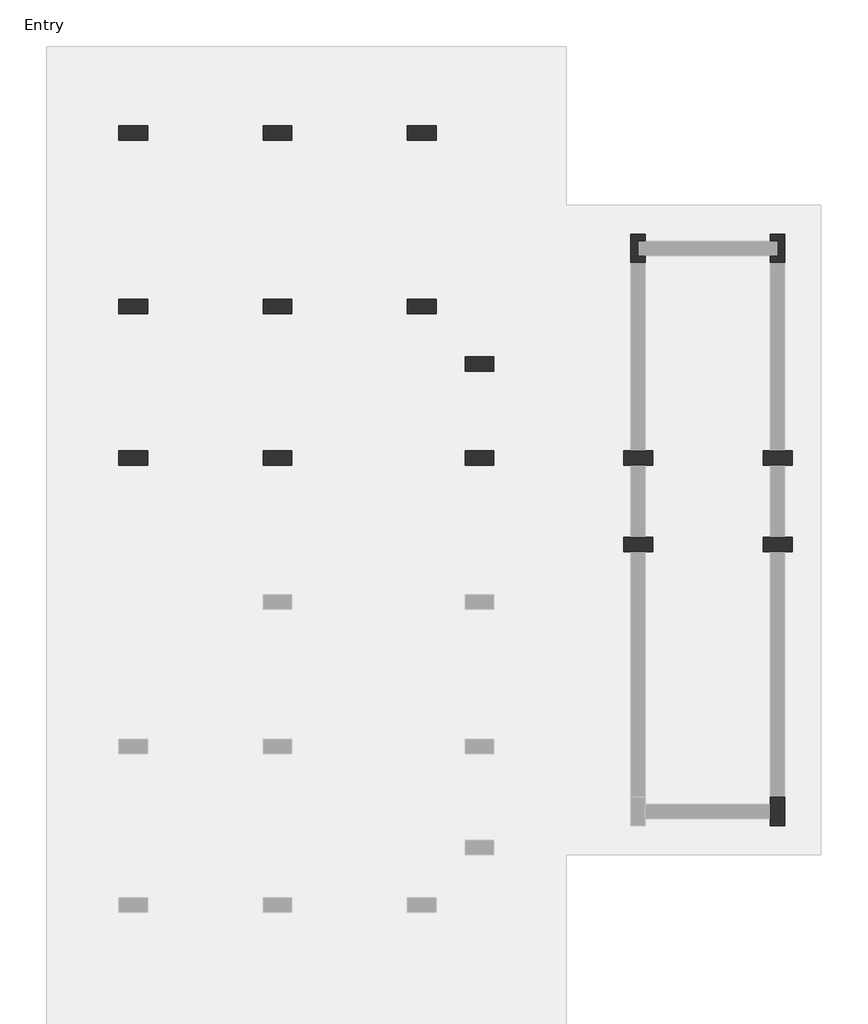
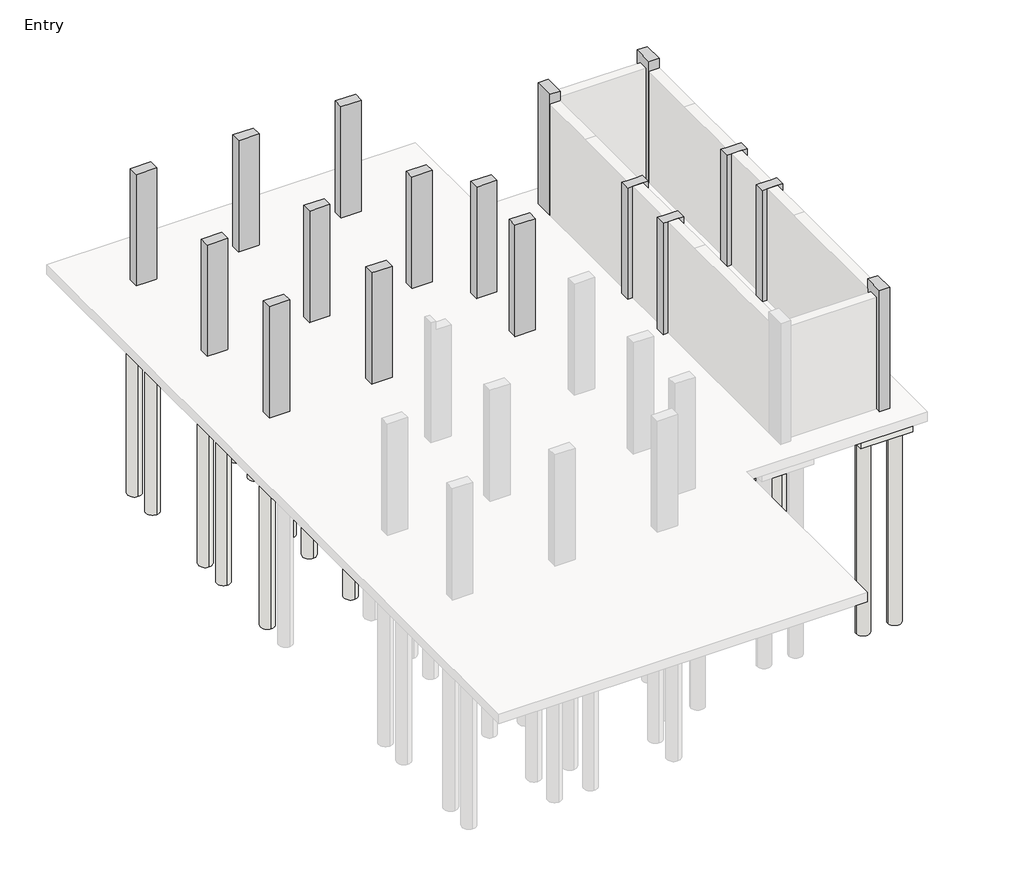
# One storey, part 2 of 2: 51 slabs, 17 columns.
"""IFC4 building model written with IfcOpenShell, lengths in millimetres."""

from ifc_helpers import new_model, si_unit, point, frame, frame_2d, origin, origin_with_axes, place, context, project, spatial, polyline, circle_curve, trimmed, segment, composite_curve, outline, extrude, faceted_brep, element, save

model = new_model("IFC4")

# Units and contexts
model_context = context("Model", 3, world=origin())
ifc_project = project(units=[si_unit("LENGTHUNIT", "METRE", prefix="MILLI")], contexts=[model_context])

# Site, building, storey
site = spatial("IfcSite", under=ifc_project)
building = spatial("IfcBuilding", under=site)
storey = spatial("IfcBuildingStorey", under=building, Name="Entry", Elevation=0.0)

# Columns
placement = place(None, origin())
element("IfcColumn", 1, ObjectType="Concrete-Rectangular-Column : 12 x 24", at=placement, inside=storey, context=model_context, shape_type="SweptSolid", body=[
    extrude(outline(polyline([(-28885.8572388, 23021.6740068), (-28276.2572388, 23021.6740068), (-28276.2572388, 22716.8740068), (-28885.8572388, 22716.8740068), (-28885.8572388, 23021.6740068)])), origin_with_axes(), (0.0, 0.0, 1.0), 3505.2),
])
element("IfcColumn", 2, ObjectType="Concrete-Rectangular-Column : 12 x 24", at=placement, inside=storey, context=model_context, shape_type="SweptSolid", body=[
    extrude(outline(polyline([(-25837.8572388, 23021.6740068), (-25228.2572388, 23021.6740068), (-25228.2572388, 22716.8740068), (-25837.8572388, 22716.8740068), (-25837.8572388, 23021.6740068)])), origin_with_axes(), (0.0, 0.0, 1.0), 3505.2),
])
element("IfcColumn", 3, ObjectType="Concrete-Rectangular-Column : 12 x 24", at=placement, inside=storey, context=model_context, shape_type="SweptSolid", body=[
    extrude(outline(polyline([(-22789.8572388, 23021.6740068), (-22180.2572388, 23021.6740068), (-22180.2572388, 22716.8740068), (-22789.8572388, 22716.8740068), (-22789.8572388, 23021.6740068)])), origin_with_axes(), (0.0, 0.0, 1.0), 3505.2),
])
element("IfcColumn", 4, ObjectType="Concrete-Rectangular-Column : 12 x 24", at=placement, inside=storey, context=model_context, shape_type="SweptSolid", body=[
    extrude(outline(polyline([(-28885.8572388, 19364.0740068), (-28276.2572388, 19364.0740068), (-28276.2572388, 19059.2740068), (-28885.8572388, 19059.2740068), (-28885.8572388, 19364.0740068)])), origin_with_axes(), (0.0, 0.0, 1.0), 3505.2),
])
element("IfcColumn", 5, ObjectType="Concrete-Rectangular-Column : 12 x 24", at=placement, inside=storey, context=model_context, shape_type="SweptSolid", body=[
    extrude(outline(polyline([(-25837.8572388, 19364.0740068), (-25228.2572388, 19364.0740068), (-25228.2572388, 19059.2740068), (-25837.8572388, 19059.2740068), (-25837.8572388, 19364.0740068)])), origin_with_axes(), (0.0, 0.0, 1.0), 3505.2),
])
element("IfcColumn", 6, ObjectType="Concrete-Rectangular-Column : 12 x 24", at=placement, inside=storey, context=model_context, shape_type="SweptSolid", body=[
    extrude(outline(polyline([(-22789.8572388, 19364.0740068), (-22180.2572388, 19364.0740068), (-22180.2572388, 19059.2740068), (-22789.8572388, 19059.2740068), (-22789.8572388, 19364.0740068)])), origin_with_axes(), (0.0, 0.0, 1.0), 3505.2),
])
element("IfcColumn", 7, ObjectType="Concrete-Rectangular-Column : 12 x 24", at=placement, inside=storey, context=model_context, shape_type="SweptSolid", body=[
    extrude(outline(polyline([(-21570.6572388, 18144.8740068), (-20961.0572388, 18144.8740068), (-20961.0572388, 17840.0740068), (-21570.6572388, 17840.0740068), (-21570.6572388, 18144.8740068)])), origin_with_axes(), (0.0, 0.0, 1.0), 3505.2),
])
element("IfcColumn", 8, ObjectType="Concrete-Rectangular-Column : 12 x 24", at=placement, inside=storey, context=model_context, shape_type="SweptSolid", body=[
    extrude(outline(polyline([(-28885.8572388, 16163.6740068), (-28276.2572388, 16163.6740068), (-28276.2572388, 15858.8740068), (-28885.8572388, 15858.8740068), (-28885.8572388, 16163.6740068)])), origin_with_axes(), (0.0, 0.0, 1.0), 3505.2),
])
element("IfcColumn", 9, ObjectType="Concrete-Rectangular-Column : 12 x 24", at=placement, inside=storey, context=model_context, shape_type="Brep", body=[
    faceted_brep([(-25837.8572388, 16163.6740068, 0.0), (-25228.2572388, 16163.6740068, 0.0), (-25228.2572388, 15858.8740068, 0.0), (-25837.8572388, 15858.8740068, 0.0), (-25837.8572388, 16163.6740068, 3505.2), (-25228.2572388, 16163.6740068, 3505.2), (-25228.2572388, 15858.8740068, 3505.2), (-25685.4572388, 15858.8740068, 3505.2), (-25837.8572388, 15858.8740068, 3505.2)], [[[0, 1, 2, 3]], [[1, 0, 4, 5]], [[2, 1, 5, 6]], [[3, 2, 6, 7, 8]], [[0, 3, 8, 4]], [[5, 4, 8, 7, 6]]]),
])
element("IfcColumn", 10, ObjectType="Concrete-Rectangular-Column : 12 x 24", at=placement, inside=storey, context=model_context, shape_type="SweptSolid", body=[
    extrude(outline(polyline([(-21570.6572388, 16163.6740068), (-20961.0572388, 16163.6740068), (-20961.0572388, 15858.8740068), (-21570.6572388, 15858.8740068), (-21570.6572388, 16163.6740068)])), origin_with_axes(), (0.0, 0.0, 1.0), 3505.2),
])
element("IfcColumn", 11, ObjectType="Concrete-Rectangular-Column : 12 x 24", at=placement, inside=storey, context=model_context, shape_type="Brep", body=[
    faceted_brep([(-18217.8572388, 16163.6740068, 0.0), (-18065.4572388, 16163.6740068, 0.0), (-17760.6572388, 16163.6740068, 0.0), (-17608.2572388, 16163.6740068, 0.0), (-17608.2572388, 15858.8740068, 0.0), (-17760.6572388, 15858.8740068, 0.0), (-18065.4572388, 15858.8740068, 0.0), (-18217.8572388, 15858.8740068, 0.0), (-18217.8572388, 16163.6740068, 3505.2), (-18065.4572388, 16163.6740068, 3505.2), (-17760.6572388, 16163.6740068, 3505.2), (-17608.2572388, 16163.6740068, 3505.2), (-17608.2572388, 15858.8740068, 3505.2), (-17760.6572388, 15858.8740068, 3505.2), (-18065.4572388, 15858.8740068, 3505.2), (-18217.8572388, 15858.8740068, 3505.2)], [[[0, 1, 2, 3, 4, 5, 6, 7]], [[3, 2, 1, 0, 8, 9, 10, 11]], [[4, 3, 11, 12]], [[7, 6, 5, 4, 12, 13, 14, 15]], [[0, 7, 15, 8]], [[11, 10, 9, 8, 15, 14, 13, 12]]]),
])
element("IfcColumn", 12, ObjectType="Concrete-Rectangular-Column : 12 x 24", at=placement, inside=storey, context=model_context, shape_type="Brep", body=[
    faceted_brep([(-15271.4572388, 16163.6740068, 0.0), (-15119.0572388, 16163.6740068, 0.0), (-14814.2572388, 16163.6740068, 0.0), (-14661.8572388, 16163.6740068, 0.0), (-14661.8572388, 15858.8740068, 0.0), (-14814.2572388, 15858.8740068, 0.0), (-15119.0572388, 15858.8740068, 0.0), (-15271.4572388, 15858.8740068, 0.0), (-15271.4572388, 16163.6740068, 3505.2), (-15119.0572388, 16163.6740068, 3505.2), (-14814.2572388, 16163.6740068, 3505.2), (-14661.8572388, 16163.6740068, 3505.2), (-14661.8572388, 15858.8740068, 3505.2), (-14814.2572388, 15858.8740068, 3505.2), (-15119.0572388, 15858.8740068, 3505.2), (-15271.4572388, 15858.8740068, 3505.2)], [[[0, 1, 2, 3, 4, 5, 6, 7]], [[3, 2, 1, 0, 8, 9, 10, 11]], [[4, 3, 11, 12]], [[7, 6, 5, 4, 12, 13, 14, 15]], [[0, 7, 15, 8]], [[11, 10, 9, 8, 15, 14, 13, 12]]]),
])
element("IfcColumn", 13, ObjectType="Concrete-Rectangular-Column : 12 x 24", at=placement, inside=storey, context=model_context, shape_type="Brep", body=[
    faceted_brep([(-18217.8572388, 14334.8740068, 0.0), (-18065.4572388, 14334.8740068, 0.0), (-17760.6572388, 14334.8740068, 0.0), (-17608.2572388, 14334.8740068, 0.0), (-17608.2572388, 14030.0740068, 0.0), (-17760.6572388, 14030.0740068, 0.0), (-18065.4572388, 14030.0740068, 0.0), (-18217.8572388, 14030.0740068, 0.0), (-18217.8572388, 14334.8740068, 3505.2), (-18065.4572388, 14334.8740068, 3505.2), (-17760.6572388, 14334.8740068, 3505.2), (-17608.2572388, 14334.8740068, 3505.2), (-17608.2572388, 14030.0740068, 3505.2), (-17760.6572388, 14030.0740068, 3505.2), (-18065.4572388, 14030.0740068, 3505.2), (-18217.8572388, 14030.0740068, 3505.2)], [[[0, 1, 2, 3, 4, 5, 6, 7]], [[3, 2, 1, 0, 8, 9, 10, 11]], [[4, 3, 11, 12]], [[7, 6, 5, 4, 12, 13, 14, 15]], [[0, 7, 15, 8]], [[11, 10, 9, 8, 15, 14, 13, 12]]]),
])
element("IfcColumn", 14, ObjectType="Concrete-Rectangular-Column : 12 x 24", at=placement, inside=storey, context=model_context, shape_type="Brep", body=[
    faceted_brep([(-15271.4572388, 14334.8740068, 0.0), (-15119.0572388, 14334.8740068, 0.0), (-14814.2572388, 14334.8740068, 0.0), (-14661.8572388, 14334.8740068, 0.0), (-14661.8572388, 14030.0740068, 0.0), (-14814.2572388, 14030.0740068, 0.0), (-15119.0572388, 14030.0740068, 0.0), (-15271.4572388, 14030.0740068, 0.0), (-15271.4572388, 14334.8740068, 3505.2), (-15119.0572388, 14334.8740068, 3505.2), (-14814.2572388, 14334.8740068, 3505.2), (-14661.8572388, 14334.8740068, 3505.2), (-14661.8572388, 14030.0740068, 3505.2), (-14814.2572388, 14030.0740068, 3505.2), (-15119.0572388, 14030.0740068, 3505.2), (-15271.4572388, 14030.0740068, 3505.2)], [[[0, 1, 2, 3, 4, 5, 6, 7]], [[3, 2, 1, 0, 8, 9, 10, 11]], [[4, 3, 11, 12]], [[7, 6, 5, 4, 12, 13, 14, 15]], [[0, 7, 15, 8]], [[11, 10, 9, 8, 15, 14, 13, 12]]]),
])
element("IfcColumn", 15, ObjectType="Concrete-Rectangular-Column : 12 x 24", at=placement, inside=storey, context=model_context, shape_type="Brep", body=[
    faceted_brep([(-18065.4572388, 20126.0740068, 0.0), (-18065.4572388, 20735.6740068, 0.0), (-17760.6572388, 20735.6740068, 0.0), (-17760.6572388, 20583.2740068, 0.0), (-17913.0572388, 20583.2740068, 0.0), (-17913.0572388, 20278.4740068, 0.0), (-17760.6572388, 20278.4740068, 0.0), (-17760.6572388, 20126.0740068, 0.0), (-18065.4572388, 20126.0740068, 3505.2), (-18065.4572388, 20126.0740068, 3810.0), (-18065.4572388, 20735.6740068, 3810.0), (-17760.6572388, 20735.6740068, 3810.0), (-17760.6572388, 20126.0740068, 3810.0), (-17760.6572388, 20126.0740068, 3505.2), (-17760.6572388, 20278.4740068, 3505.2), (-17760.6572388, 20583.2740068, 3505.2), (-17913.0572388, 20583.2740068, 3505.2), (-17913.0572388, 20278.4740068, 3505.2)], [[[0, 1, 2, 3, 4, 5, 6, 7]], [[1, 0, 8, 9, 10]], [[2, 1, 10, 11]], [[2, 11, 12, 13, 7, 6, 14, 15, 3]], [[0, 7, 13, 12, 9, 8]], [[10, 9, 12, 11]], [[16, 4, 3, 15]], [[5, 17, 14, 6]], [[4, 16, 17, 5]], [[17, 16, 15, 14]]]),
])
element("IfcColumn", 16, ObjectType="Concrete-Rectangular-Column : 12 x 24", at=placement, inside=storey, context=model_context, shape_type="Brep", body=[
    faceted_brep([(-15119.0572388, 20735.6740068, 0.0), (-14814.2572388, 20735.6740068, 0.0), (-14814.2572388, 20126.0740068, 0.0), (-15119.0572388, 20126.0740068, 0.0), (-15119.0572388, 20278.4740068, 0.0), (-14966.6572388, 20278.4740068, 0.0), (-14966.6572388, 20583.2740068, 0.0), (-15119.0572388, 20583.2740068, 0.0), (-15119.0572388, 20126.0740068, 3810.0), (-15119.0572388, 20735.6740068, 3810.0), (-15119.0572388, 20583.2740068, 3505.2), (-15119.0572388, 20278.4740068, 3505.2), (-15119.0572388, 20126.0740068, 3505.2), (-14814.2572388, 20735.6740068, 3810.0), (-14814.2572388, 20126.0740068, 3810.0), (-14814.2572388, 20126.0740068, 3505.2), (-14966.6572388, 20583.2740068, 3505.2), (-14966.6572388, 20278.4740068, 3505.2)], [[[0, 1, 2, 3, 4, 5, 6, 7]], [[8, 9, 0, 7, 10, 11, 4, 3, 12]], [[1, 0, 9, 13]], [[2, 1, 13, 14, 15]], [[3, 2, 15, 14, 8, 12]], [[9, 8, 14, 13]], [[6, 16, 10, 7]], [[17, 5, 4, 11]], [[16, 17, 11, 10]], [[16, 6, 5, 17]]]),
])
element("IfcColumn", 17, ObjectType="Concrete-Rectangular-Column : 12 x 24", at=placement, inside=storey, context=model_context, shape_type="Brep", body=[
    faceted_brep([(-15119.0572388, 8238.8740068, 0.0), (-15119.0572388, 8391.2740068, 0.0), (-15119.0572388, 8696.0740068, 0.0), (-15119.0572388, 8848.4740068, 0.0), (-14814.2572388, 8848.4740068, 0.0), (-14814.2572388, 8238.8740068, 0.0), (-15119.0572388, 8238.8740068, 3810.0), (-15119.0572388, 8848.4740068, 3810.0), (-15119.0572388, 8848.4740068, 3505.2), (-14814.2572388, 8848.4740068, 3810.0), (-14814.2572388, 8848.4740068, 3505.2), (-14814.2572388, 8238.8740068, 3810.0)], [[[0, 1, 2, 3, 4, 5]], [[6, 7, 8, 3, 2, 1, 0]], [[7, 9, 10, 4, 3, 8]], [[9, 11, 5, 4, 10]], [[11, 6, 0, 5]], [[6, 11, 9, 7]]]),
])

# Slabs
element("IfcSlab", 18, ObjectType="Pile Cap-2 Pile : 31\"x61\"x35\"", at=placement, inside=storey, context=model_context, shape_type="SweptSolid", body=[
    extrude(outline(polyline([(-28987.4572388, 19986.3740068), (-28174.6572388, 19986.3740068), (-28174.6572388, 18436.9740068), (-28987.4572388, 18436.9740068), (-28987.4572388, 19986.3740068)])), frame((0.0, 0.0, -889.0), z_axis=(0.0, 0.0, 1.0), x_axis=(1.0, 0.0, 0.0)), (0.0, 0.0, 1.0), 584.2),
])
element("IfcSlab", 19, ObjectType="Pile Cap-2 Pile : 31\"x61\"x35\"", at=placement, inside=storey, context=model_context, shape_type="SweptSolid", body=[
    extrude(outline(polyline([(-28987.4572388, 23643.9740068), (-28174.6572388, 23643.9740068), (-28174.6572388, 22094.5740068), (-28987.4572388, 22094.5740068), (-28987.4572388, 23643.9740068)])), frame((0.0, 0.0, -889.0), z_axis=(0.0, 0.0, 1.0), x_axis=(1.0, 0.0, 0.0)), (0.0, 0.0, 1.0), 584.2),
])
element("IfcSlab", 20, ObjectType="Pile Cap-2 Pile : 31\"x61\"x35\"", at=placement, inside=storey, context=model_context, shape_type="SweptSolid", body=[
    extrude(outline(polyline([(-28987.4572388, 16785.9740068), (-28174.6572388, 16785.9740068), (-28174.6572388, 15236.5740068), (-28987.4572388, 15236.5740068), (-28987.4572388, 16785.9740068)])), frame((0.0, 0.0, -889.0), z_axis=(0.0, 0.0, 1.0), x_axis=(1.0, 0.0, 0.0)), (0.0, 0.0, 1.0), 584.2),
])
element("IfcSlab", 21, ObjectType="Pile Cap-2 Pile : 31\"x61\"x35\"", at=placement, inside=storey, context=model_context, shape_type="SweptSolid", body=[
    extrude(outline(polyline([(-21672.2572388, 16785.9740068), (-20859.4572388, 16785.9740068), (-20859.4572388, 15236.5740068), (-21672.2572388, 15236.5740068), (-21672.2572388, 16785.9740068)])), frame((0.0, 0.0, -889.0), z_axis=(0.0, 0.0, 1.0), x_axis=(1.0, 0.0, 0.0)), (0.0, 0.0, 1.0), 584.2),
])
element("IfcSlab", 22, ObjectType="Pile Cap-2 Pile : 31\"x61\"x35\"", at=placement, inside=storey, context=model_context, shape_type="SweptSolid", body=[
    extrude(outline(polyline([(-22891.4572388, 19986.3740068), (-22078.6572388, 19986.3740068), (-22078.6572388, 18436.9740068), (-22891.4572388, 18436.9740068), (-22891.4572388, 19986.3740068)])), frame((0.0, 0.0, -889.0), z_axis=(0.0, 0.0, 1.0), x_axis=(1.0, 0.0, 0.0)), (0.0, 0.0, 1.0), 584.2),
])
element("IfcSlab", 23, ObjectType="Pile Cap-2 Pile : 31\"x61\"x35\"", at=placement, inside=storey, context=model_context, shape_type="SweptSolid", body=[
    extrude(outline(polyline([(-22891.4572388, 23643.9740068), (-22078.6572388, 23643.9740068), (-22078.6572388, 22094.5740068), (-22891.4572388, 22094.5740068), (-22891.4572388, 23643.9740068)])), frame((0.0, 0.0, -889.0), z_axis=(0.0, 0.0, 1.0), x_axis=(1.0, 0.0, 0.0)), (0.0, 0.0, 1.0), 584.2),
])
element("IfcSlab", 24, ObjectType="Pile Cap-2 Pile : 31\"x61\"x35\"", at=placement, inside=storey, context=model_context, shape_type="SweptSolid", body=[
    extrude(outline(polyline([(-25939.4572388, 23643.9740068), (-25126.6572388, 23643.9740068), (-25126.6572388, 22094.5740068), (-25939.4572388, 22094.5740068), (-25939.4572388, 23643.9740068)])), frame((0.0, 0.0, -889.0), z_axis=(0.0, 0.0, 1.0), x_axis=(1.0, 0.0, 0.0)), (0.0, 0.0, 1.0), 584.2),
])
element("IfcSlab", 25, ObjectType="Pile Cap-2 Pile : 31\"x61\"x35\"", at=placement, inside=storey, context=model_context, shape_type="SweptSolid", body=[
    extrude(outline(polyline([(-17138.3572388, 20837.2740068), (-17138.3572388, 20024.4740068), (-18687.7572388, 20024.4740068), (-18687.7572388, 20837.2740068), (-17138.3572388, 20837.2740068)])), frame((0.0, 0.0, -889.0), z_axis=(0.0, 0.0, 1.0), x_axis=(1.0, 0.0, 0.0)), (0.0, 0.0, 1.0), 584.2),
])
element("IfcSlab", 26, ObjectType="Pile Cap-2 Pile : 31\"x61\"x35\"", at=placement, inside=storey, context=model_context, shape_type="SweptSolid", body=[
    extrude(outline(polyline([(-14191.9572388, 20837.2740068), (-14191.9572388, 20024.4740068), (-15741.3572388, 20024.4740068), (-15741.3572388, 20837.2740068), (-14191.9572388, 20837.2740068)])), frame((0.0, 0.0, -889.0), z_axis=(0.0, 0.0, 1.0), x_axis=(1.0, 0.0, 0.0)), (0.0, 0.0, 1.0), 584.2),
])
element("IfcSlab", 27, ObjectType="Pile Cap-2 Pile : 31\"x61\"x35\"", at=placement, inside=storey, context=model_context, shape_type="SweptSolid", body=[
    extrude(outline(polyline([(-15373.0572388, 16785.9740068), (-14560.2572388, 16785.9740068), (-14560.2572388, 15236.5740068), (-15373.0572388, 15236.5740068), (-15373.0572388, 16785.9740068)])), frame((0.0, 0.0, -889.0), z_axis=(0.0, 0.0, 1.0), x_axis=(1.0, 0.0, 0.0)), (0.0, 0.0, 1.0), 584.2),
])
element("IfcSlab", 28, ObjectType="Pile Cap-2 Pile : 31\"x61\"x35\"", at=placement, inside=storey, context=model_context, shape_type="SweptSolid", body=[
    extrude(outline(polyline([(-18319.4572388, 16785.9740068), (-17506.6572388, 16785.9740068), (-17506.6572388, 15236.5740068), (-18319.4572388, 15236.5740068), (-18319.4572388, 16785.9740068)])), frame((0.0, 0.0, -889.0), z_axis=(0.0, 0.0, 1.0), x_axis=(1.0, 0.0, 0.0)), (0.0, 0.0, 1.0), 584.2),
])
element("IfcSlab", 29, ObjectType="Pile Cap-2 Pile : 31\"x61\"x35\"", at=placement, inside=storey, context=model_context, shape_type="SweptSolid", body=[
    extrude(outline(polyline([(-17506.6572388, 13407.7740068), (-18319.4572388, 13407.7740068), (-18319.4572388, 14957.1740068), (-17506.6572388, 14957.1740068), (-17506.6572388, 13407.7740068)])), frame((0.0, 0.0, -889.0), z_axis=(0.0, 0.0, 1.0), x_axis=(1.0, 0.0, 0.0)), (0.0, 0.0, 1.0), 584.2),
])
element("IfcSlab", 30, ObjectType="Pile Cap-2 Pile : 31\"x61\"x35\"", at=placement, inside=storey, context=model_context, shape_type="SweptSolid", body=[
    extrude(outline(polyline([(-15373.0572388, 14957.1740068), (-14560.2572388, 14957.1740068), (-14560.2572388, 13407.7740068), (-15373.0572388, 13407.7740068), (-15373.0572388, 14957.1740068)])), frame((0.0, 0.0, -889.0), z_axis=(0.0, 0.0, 1.0), x_axis=(1.0, 0.0, 0.0)), (0.0, 0.0, 1.0), 584.2),
])
element("IfcSlab", 31, ObjectType="Pile Cap-2 Pile : 31\"x61\"x35\"", at=placement, inside=storey, context=model_context, shape_type="SweptSolid", body=[
    extrude(outline(polyline([(-14191.9572388, 8950.0740068), (-14191.9572388, 8137.2740068), (-15741.3572388, 8137.2740068), (-15741.3572388, 8950.0740068), (-14191.9572388, 8950.0740068)])), frame((0.0, 0.0, -889.0), z_axis=(0.0, 0.0, 1.0), x_axis=(1.0, 0.0, 0.0)), (0.0, 0.0, 1.0), 584.2),
])
element("IfcSlab", 32, ObjectType="Pile Cap-2 Pile : 31\"x61\"x35\"", at=placement, inside=storey, context=model_context, shape_type="SweptSolid", body=[
    extrude(outline(polyline([(-20491.1572388, 18398.8740068), (-20491.1572388, 17586.0740068), (-22040.5572388, 17586.0740068), (-22040.5572388, 18398.8740068), (-20491.1572388, 18398.8740068)])), frame((0.0, 0.0, -889.0), z_axis=(0.0, 0.0, 1.0), x_axis=(1.0, 0.0, 0.0)), (0.0, 0.0, 1.0), 584.2),
])
element("IfcSlab", 33, ObjectType="Pile Cap-4 Pile : 72\" x 72\" x35\"", at=placement, inside=storey, context=model_context, shape_type="SweptSolid", body=[
    extrude(outline(polyline([(-26447.4572388, 20126.0740068), (-24618.6572388, 20126.0740068), (-24618.6572388, 18297.2740068), (-26447.4572388, 18297.2740068), (-26447.4572388, 20126.0740068)])), frame((0.0, 0.0, -889.0), z_axis=(0.0, 0.0, 1.0), x_axis=(1.0, 0.0, 0.0)), (0.0, 0.0, 1.0), 584.2),
])
element("IfcSlab", 34, ObjectType="Pile Cap-4 Pile : 72\" x 72\" x35\"", at=placement, inside=storey, context=model_context, shape_type="SweptSolid", body=[
    extrude(outline(polyline([(-26447.4572388, 16925.6740068), (-24618.6572388, 16925.6740068), (-24618.6572388, 15096.8740068), (-26447.4572388, 15096.8740068), (-26447.4572388, 16925.6740068)])), frame((0.0, 0.0, -889.0), z_axis=(0.0, 0.0, 1.0), x_axis=(1.0, 0.0, 0.0)), (0.0, 0.0, 1.0), 584.2),
])
element("IfcSlab", 35, ObjectType="Pile-Steel Pipe : 16\" Diameter", at=placement, inside=storey, context=model_context, shape_type="SweptSolid", body=[
    extrude(outline(composite_curve([segment(trimmed(circle_curve(frame_2d((-26066.4572388, 18678.2740068)), 203.2), [point((-26066.4572388, 18475.0740068))], [point((-26066.4572388, 18881.4740068))], False, "CARTESIAN"), True, "CONTINUOUS"), segment(trimmed(circle_curve(frame_2d((-26066.4572388, 18678.2740068)), 203.2), [point((-26066.4572388, 18881.4740068))], [point((-26066.4572388, 18475.0740068))], False, "CARTESIAN"), True, "CONTINUOUS")], self_intersect=False)), frame((0.0, 0.0, -6985.0), z_axis=(0.0, 0.0, 1.0), x_axis=(1.0, 0.0, 0.0)), (0.0, 0.0, 1.0), 6096.0),
])
element("IfcSlab", 36, ObjectType="Pile-Steel Pipe : 16\" Diameter", at=placement, inside=storey, context=model_context, shape_type="SweptSolid", body=[
    extrude(outline(composite_curve([segment(trimmed(circle_curve(frame_2d((-24999.6572388, 18678.2740068)), 203.2), [point((-24999.6572388, 18475.0740068))], [point((-24999.6572388, 18881.4740068))], False, "CARTESIAN"), True, "CONTINUOUS"), segment(trimmed(circle_curve(frame_2d((-24999.6572388, 18678.2740068)), 203.2), [point((-24999.6572388, 18881.4740068))], [point((-24999.6572388, 18475.0740068))], False, "CARTESIAN"), True, "CONTINUOUS")], self_intersect=False)), frame((0.0, 0.0, -6985.0), z_axis=(0.0, 0.0, 1.0), x_axis=(1.0, 0.0, 0.0)), (0.0, 0.0, 1.0), 6096.0),
])
element("IfcSlab", 37, ObjectType="Pile-Steel Pipe : 16\" Diameter", at=placement, inside=storey, context=model_context, shape_type="SweptSolid", body=[
    extrude(outline(composite_curve([segment(trimmed(circle_curve(frame_2d((-24999.6572388, 19745.0740068)), 203.2), [point((-24999.6572388, 19541.8740068))], [point((-24999.6572388, 19948.2740068))], False, "CARTESIAN"), True, "CONTINUOUS"), segment(trimmed(circle_curve(frame_2d((-24999.6572388, 19745.0740068)), 203.2), [point((-24999.6572388, 19948.2740068))], [point((-24999.6572388, 19541.8740068))], False, "CARTESIAN"), True, "CONTINUOUS")], self_intersect=False)), frame((0.0, 0.0, -6985.0), z_axis=(0.0, 0.0, 1.0), x_axis=(1.0, 0.0, 0.0)), (0.0, 0.0, 1.0), 6096.0),
])
element("IfcSlab", 38, ObjectType="Pile-Steel Pipe : 16\" Diameter", at=placement, inside=storey, context=model_context, shape_type="SweptSolid", body=[
    extrude(outline(composite_curve([segment(trimmed(circle_curve(frame_2d((-26066.4572388, 19745.0740068)), 203.2), [point((-26066.4572388, 19541.8740068))], [point((-26066.4572388, 19948.2740068))], False, "CARTESIAN"), True, "CONTINUOUS"), segment(trimmed(circle_curve(frame_2d((-26066.4572388, 19745.0740068)), 203.2), [point((-26066.4572388, 19948.2740068))], [point((-26066.4572388, 19541.8740068))], False, "CARTESIAN"), True, "CONTINUOUS")], self_intersect=False)), frame((0.0, 0.0, -6985.0), z_axis=(0.0, 0.0, 1.0), x_axis=(1.0, 0.0, 0.0)), (0.0, 0.0, 1.0), 6096.0),
])
element("IfcSlab", 39, ObjectType="Pile-Steel Pipe : 16\" Diameter", at=placement, inside=storey, context=model_context, shape_type="SweptSolid", body=[
    extrude(outline(composite_curve([segment(trimmed(circle_curve(frame_2d((-24999.6572388, 16544.6740068)), 203.2), [point((-24999.6572388, 16341.4740068))], [point((-24999.6572388, 16747.8740068))], False, "CARTESIAN"), True, "CONTINUOUS"), segment(trimmed(circle_curve(frame_2d((-24999.6572388, 16544.6740068)), 203.2), [point((-24999.6572388, 16747.8740068))], [point((-24999.6572388, 16341.4740068))], False, "CARTESIAN"), True, "CONTINUOUS")], self_intersect=False)), frame((0.0, 0.0, -6985.0), z_axis=(0.0, 0.0, 1.0), x_axis=(1.0, 0.0, 0.0)), (0.0, 0.0, 1.0), 6096.0),
])
element("IfcSlab", 40, ObjectType="Pile-Steel Pipe : 16\" Diameter", at=placement, inside=storey, context=model_context, shape_type="SweptSolid", body=[
    extrude(outline(composite_curve([segment(trimmed(circle_curve(frame_2d((-26066.4572388, 16544.6740068)), 203.2), [point((-26066.4572388, 16341.4740068))], [point((-26066.4572388, 16747.8740068))], False, "CARTESIAN"), True, "CONTINUOUS"), segment(trimmed(circle_curve(frame_2d((-26066.4572388, 16544.6740068)), 203.2), [point((-26066.4572388, 16747.8740068))], [point((-26066.4572388, 16341.4740068))], False, "CARTESIAN"), True, "CONTINUOUS")], self_intersect=False)), frame((0.0, 0.0, -6985.0), z_axis=(0.0, 0.0, 1.0), x_axis=(1.0, 0.0, 0.0)), (0.0, 0.0, 1.0), 6096.0),
])
element("IfcSlab", 41, ObjectType="Pile-Steel Pipe : 16\" Diameter", at=placement, inside=storey, context=model_context, shape_type="SweptSolid", body=[
    extrude(outline(composite_curve([segment(trimmed(circle_curve(frame_2d((-28581.0572388, 18741.7740068)), 203.2), [point((-28581.0572388, 18538.5740068))], [point((-28581.0572388, 18944.9740068))], False, "CARTESIAN"), True, "CONTINUOUS"), segment(trimmed(circle_curve(frame_2d((-28581.0572388, 18741.7740068)), 203.2), [point((-28581.0572388, 18944.9740068))], [point((-28581.0572388, 18538.5740068))], False, "CARTESIAN"), True, "CONTINUOUS")], self_intersect=False)), frame((0.0, 0.0, -6985.0), z_axis=(0.0, 0.0, 1.0), x_axis=(1.0, 0.0, 0.0)), (0.0, 0.0, 1.0), 6096.0),
])
element("IfcSlab", 42, ObjectType="Pile-Steel Pipe : 16\" Diameter", at=placement, inside=storey, context=model_context, shape_type="SweptSolid", body=[
    extrude(outline(composite_curve([segment(trimmed(circle_curve(frame_2d((-28581.0572388, 19681.5740068)), 203.2), [point((-28581.0572388, 19478.3740068))], [point((-28581.0572388, 19884.7740068))], False, "CARTESIAN"), True, "CONTINUOUS"), segment(trimmed(circle_curve(frame_2d((-28581.0572388, 19681.5740068)), 203.2), [point((-28581.0572388, 19884.7740068))], [point((-28581.0572388, 19478.3740068))], False, "CARTESIAN"), True, "CONTINUOUS")], self_intersect=False)), frame((0.0, 0.0, -6985.0), z_axis=(0.0, 0.0, 1.0), x_axis=(1.0, 0.0, 0.0)), (0.0, 0.0, 1.0), 6096.0),
])
element("IfcSlab", 43, ObjectType="Pile-Steel Pipe : 16\" Diameter", at=placement, inside=storey, context=model_context, shape_type="SweptSolid", body=[
    extrude(outline(composite_curve([segment(trimmed(circle_curve(frame_2d((-28581.0572388, 22399.3740068)), 203.2), [point((-28581.0572388, 22196.1740068))], [point((-28581.0572388, 22602.5740068))], False, "CARTESIAN"), True, "CONTINUOUS"), segment(trimmed(circle_curve(frame_2d((-28581.0572388, 22399.3740068)), 203.2), [point((-28581.0572388, 22602.5740068))], [point((-28581.0572388, 22196.1740068))], False, "CARTESIAN"), True, "CONTINUOUS")], self_intersect=False)), frame((0.0, 0.0, -6985.0), z_axis=(0.0, 0.0, 1.0), x_axis=(1.0, 0.0, 0.0)), (0.0, 0.0, 1.0), 6096.0),
])
element("IfcSlab", 44, ObjectType="Pile-Steel Pipe : 16\" Diameter", at=placement, inside=storey, context=model_context, shape_type="SweptSolid", body=[
    extrude(outline(composite_curve([segment(trimmed(circle_curve(frame_2d((-28581.0572388, 23339.1740068)), 203.2), [point((-28581.0572388, 23135.9740068))], [point((-28581.0572388, 23542.3740068))], False, "CARTESIAN"), True, "CONTINUOUS"), segment(trimmed(circle_curve(frame_2d((-28581.0572388, 23339.1740068)), 203.2), [point((-28581.0572388, 23542.3740068))], [point((-28581.0572388, 23135.9740068))], False, "CARTESIAN"), True, "CONTINUOUS")], self_intersect=False)), frame((0.0, 0.0, -6985.0), z_axis=(0.0, 0.0, 1.0), x_axis=(1.0, 0.0, 0.0)), (0.0, 0.0, 1.0), 6096.0),
])
element("IfcSlab", 45, ObjectType="Pile-Steel Pipe : 16\" Diameter", at=placement, inside=storey, context=model_context, shape_type="SweptSolid", body=[
    extrude(outline(composite_curve([segment(trimmed(circle_curve(frame_2d((-28581.0572388, 16481.1740068)), 203.2), [point((-28581.0572388, 16277.9740068))], [point((-28581.0572388, 16684.3740068))], False, "CARTESIAN"), True, "CONTINUOUS"), segment(trimmed(circle_curve(frame_2d((-28581.0572388, 16481.1740068)), 203.2), [point((-28581.0572388, 16684.3740068))], [point((-28581.0572388, 16277.9740068))], False, "CARTESIAN"), True, "CONTINUOUS")], self_intersect=False)), frame((0.0, 0.0, -6985.0), z_axis=(0.0, 0.0, 1.0), x_axis=(1.0, 0.0, 0.0)), (0.0, 0.0, 1.0), 6096.0),
])
element("IfcSlab", 46, ObjectType="Pile-Steel Pipe : 16\" Diameter", at=placement, inside=storey, context=model_context, shape_type="SweptSolid", body=[
    extrude(outline(composite_curve([segment(trimmed(circle_curve(frame_2d((-21265.8572388, 16481.1740068)), 203.2), [point((-21265.8572388, 16277.9740068))], [point((-21265.8572388, 16684.3740068))], False, "CARTESIAN"), True, "CONTINUOUS"), segment(trimmed(circle_curve(frame_2d((-21265.8572388, 16481.1740068)), 203.2), [point((-21265.8572388, 16684.3740068))], [point((-21265.8572388, 16277.9740068))], False, "CARTESIAN"), True, "CONTINUOUS")], self_intersect=False)), frame((0.0, 0.0, -6985.0), z_axis=(0.0, 0.0, 1.0), x_axis=(1.0, 0.0, 0.0)), (0.0, 0.0, 1.0), 6096.0),
])
element("IfcSlab", 47, ObjectType="Pile-Steel Pipe : 16\" Diameter", at=placement, inside=storey, context=model_context, shape_type="SweptSolid", body=[
    extrude(outline(composite_curve([segment(trimmed(circle_curve(frame_2d((-22485.0572388, 18741.7740068)), 203.2), [point((-22485.0572388, 18538.5740068))], [point((-22485.0572388, 18944.9740068))], False, "CARTESIAN"), True, "CONTINUOUS"), segment(trimmed(circle_curve(frame_2d((-22485.0572388, 18741.7740068)), 203.2), [point((-22485.0572388, 18944.9740068))], [point((-22485.0572388, 18538.5740068))], False, "CARTESIAN"), True, "CONTINUOUS")], self_intersect=False)), frame((0.0, 0.0, -6985.0), z_axis=(0.0, 0.0, 1.0), x_axis=(1.0, 0.0, 0.0)), (0.0, 0.0, 1.0), 6096.0),
])
element("IfcSlab", 48, ObjectType="Pile-Steel Pipe : 16\" Diameter", at=placement, inside=storey, context=model_context, shape_type="SweptSolid", body=[
    extrude(outline(composite_curve([segment(trimmed(circle_curve(frame_2d((-22485.0572388, 19681.5740068)), 203.2), [point((-22485.0572388, 19478.3740068))], [point((-22485.0572388, 19884.7740068))], False, "CARTESIAN"), True, "CONTINUOUS"), segment(trimmed(circle_curve(frame_2d((-22485.0572388, 19681.5740068)), 203.2), [point((-22485.0572388, 19884.7740068))], [point((-22485.0572388, 19478.3740068))], False, "CARTESIAN"), True, "CONTINUOUS")], self_intersect=False)), frame((0.0, 0.0, -6985.0), z_axis=(0.0, 0.0, 1.0), x_axis=(1.0, 0.0, 0.0)), (0.0, 0.0, 1.0), 6096.0),
])
element("IfcSlab", 49, ObjectType="Pile-Steel Pipe : 16\" Diameter", at=placement, inside=storey, context=model_context, shape_type="SweptSolid", body=[
    extrude(outline(composite_curve([segment(trimmed(circle_curve(frame_2d((-22485.0572388, 22399.3740068)), 203.2), [point((-22485.0572388, 22196.1740068))], [point((-22485.0572388, 22602.5740068))], False, "CARTESIAN"), True, "CONTINUOUS"), segment(trimmed(circle_curve(frame_2d((-22485.0572388, 22399.3740068)), 203.2), [point((-22485.0572388, 22602.5740068))], [point((-22485.0572388, 22196.1740068))], False, "CARTESIAN"), True, "CONTINUOUS")], self_intersect=False)), frame((0.0, 0.0, -6985.0), z_axis=(0.0, 0.0, 1.0), x_axis=(1.0, 0.0, 0.0)), (0.0, 0.0, 1.0), 6096.0),
])
element("IfcSlab", 50, ObjectType="Pile-Steel Pipe : 16\" Diameter", at=placement, inside=storey, context=model_context, shape_type="SweptSolid", body=[
    extrude(outline(composite_curve([segment(trimmed(circle_curve(frame_2d((-22485.0572388, 23339.1740068)), 203.2), [point((-22485.0572388, 23135.9740068))], [point((-22485.0572388, 23542.3740068))], False, "CARTESIAN"), True, "CONTINUOUS"), segment(trimmed(circle_curve(frame_2d((-22485.0572388, 23339.1740068)), 203.2), [point((-22485.0572388, 23542.3740068))], [point((-22485.0572388, 23135.9740068))], False, "CARTESIAN"), True, "CONTINUOUS")], self_intersect=False)), frame((0.0, 0.0, -6985.0), z_axis=(0.0, 0.0, 1.0), x_axis=(1.0, 0.0, 0.0)), (0.0, 0.0, 1.0), 6096.0),
])
element("IfcSlab", 51, ObjectType="Pile-Steel Pipe : 16\" Diameter", at=placement, inside=storey, context=model_context, shape_type="SweptSolid", body=[
    extrude(outline(composite_curve([segment(trimmed(circle_curve(frame_2d((-25533.0572388, 22399.3740068)), 203.2), [point((-25533.0572388, 22196.1740068))], [point((-25533.0572388, 22602.5740068))], False, "CARTESIAN"), True, "CONTINUOUS"), segment(trimmed(circle_curve(frame_2d((-25533.0572388, 22399.3740068)), 203.2), [point((-25533.0572388, 22602.5740068))], [point((-25533.0572388, 22196.1740068))], False, "CARTESIAN"), True, "CONTINUOUS")], self_intersect=False)), frame((0.0, 0.0, -6985.0), z_axis=(0.0, 0.0, 1.0), x_axis=(1.0, 0.0, 0.0)), (0.0, 0.0, 1.0), 6096.0),
])
element("IfcSlab", 52, ObjectType="Pile-Steel Pipe : 16\" Diameter", at=placement, inside=storey, context=model_context, shape_type="SweptSolid", body=[
    extrude(outline(composite_curve([segment(trimmed(circle_curve(frame_2d((-25533.0572388, 23339.1740068)), 203.2), [point((-25533.0572388, 23135.9740068))], [point((-25533.0572388, 23542.3740068))], False, "CARTESIAN"), True, "CONTINUOUS"), segment(trimmed(circle_curve(frame_2d((-25533.0572388, 23339.1740068)), 203.2), [point((-25533.0572388, 23542.3740068))], [point((-25533.0572388, 23135.9740068))], False, "CARTESIAN"), True, "CONTINUOUS")], self_intersect=False)), frame((0.0, 0.0, -6985.0), z_axis=(0.0, 0.0, 1.0), x_axis=(1.0, 0.0, 0.0)), (0.0, 0.0, 1.0), 6096.0),
])
element("IfcSlab", 53, ObjectType="Pile-Steel Pipe : 16\" Diameter", at=placement, inside=storey, context=model_context, shape_type="SweptSolid", body=[
    extrude(outline(composite_curve([segment(trimmed(circle_curve(frame_2d((-18382.9572388, 20430.8740068)), 203.2), [point((-18586.1572388, 20430.8740068))], [point((-18179.7572388, 20430.8740068))], False, "CARTESIAN"), True, "CONTINUOUS"), segment(trimmed(circle_curve(frame_2d((-18382.9572388, 20430.8740068)), 203.2), [point((-18179.7572388, 20430.8740068))], [point((-18586.1572388, 20430.8740068))], False, "CARTESIAN"), True, "CONTINUOUS")], self_intersect=False)), frame((0.0, 0.0, -6985.0), z_axis=(0.0, 0.0, 1.0), x_axis=(1.0, 0.0, 0.0)), (0.0, 0.0, 1.0), 6096.0),
])
element("IfcSlab", 54, ObjectType="Pile-Steel Pipe : 16\" Diameter", at=placement, inside=storey, context=model_context, shape_type="SweptSolid", body=[
    extrude(outline(composite_curve([segment(trimmed(circle_curve(frame_2d((-17443.1572388, 20430.8740068)), 203.2), [point((-17646.3572388, 20430.8740068))], [point((-17239.9572388, 20430.8740068))], False, "CARTESIAN"), True, "CONTINUOUS"), segment(trimmed(circle_curve(frame_2d((-17443.1572388, 20430.8740068)), 203.2), [point((-17239.9572388, 20430.8740068))], [point((-17646.3572388, 20430.8740068))], False, "CARTESIAN"), True, "CONTINUOUS")], self_intersect=False)), frame((0.0, 0.0, -6985.0), z_axis=(0.0, 0.0, 1.0), x_axis=(1.0, 0.0, 0.0)), (0.0, 0.0, 1.0), 6096.0),
])
element("IfcSlab", 55, ObjectType="Pile-Steel Pipe : 16\" Diameter", at=placement, inside=storey, context=model_context, shape_type="SweptSolid", body=[
    extrude(outline(composite_curve([segment(trimmed(circle_curve(frame_2d((-15436.5572388, 20430.8740068)), 203.2), [point((-15639.7572388, 20430.8740068))], [point((-15233.3572388, 20430.8740068))], False, "CARTESIAN"), True, "CONTINUOUS"), segment(trimmed(circle_curve(frame_2d((-15436.5572388, 20430.8740068)), 203.2), [point((-15233.3572388, 20430.8740068))], [point((-15639.7572388, 20430.8740068))], False, "CARTESIAN"), True, "CONTINUOUS")], self_intersect=False)), frame((0.0, 0.0, -6985.0), z_axis=(0.0, 0.0, 1.0), x_axis=(1.0, 0.0, 0.0)), (0.0, 0.0, 1.0), 6096.0),
])
element("IfcSlab", 56, ObjectType="Pile-Steel Pipe : 16\" Diameter", at=placement, inside=storey, context=model_context, shape_type="SweptSolid", body=[
    extrude(outline(composite_curve([segment(trimmed(circle_curve(frame_2d((-14496.7572388, 20430.8740068)), 203.2), [point((-14699.9572388, 20430.8740068))], [point((-14293.5572388, 20430.8740068))], False, "CARTESIAN"), True, "CONTINUOUS"), segment(trimmed(circle_curve(frame_2d((-14496.7572388, 20430.8740068)), 203.2), [point((-14293.5572388, 20430.8740068))], [point((-14699.9572388, 20430.8740068))], False, "CARTESIAN"), True, "CONTINUOUS")], self_intersect=False)), frame((0.0, 0.0, -6985.0), z_axis=(0.0, 0.0, 1.0), x_axis=(1.0, 0.0, 0.0)), (0.0, 0.0, 1.0), 6096.0),
])
element("IfcSlab", 57, ObjectType="Pile-Steel Pipe : 16\" Diameter", at=placement, inside=storey, context=model_context, shape_type="SweptSolid", body=[
    extrude(outline(composite_curve([segment(trimmed(circle_curve(frame_2d((-14966.6572388, 15541.3740068)), 203.2), [point((-14966.6572388, 15338.1740068))], [point((-14966.6572388, 15744.5740068))], False, "CARTESIAN"), True, "CONTINUOUS"), segment(trimmed(circle_curve(frame_2d((-14966.6572388, 15541.3740068)), 203.2), [point((-14966.6572388, 15744.5740068))], [point((-14966.6572388, 15338.1740068))], False, "CARTESIAN"), True, "CONTINUOUS")], self_intersect=False)), frame((0.0, 0.0, -6985.0), z_axis=(0.0, 0.0, 1.0), x_axis=(1.0, 0.0, 0.0)), (0.0, 0.0, 1.0), 6096.0),
])
element("IfcSlab", 58, ObjectType="Pile-Steel Pipe : 16\" Diameter", at=placement, inside=storey, context=model_context, shape_type="SweptSolid", body=[
    extrude(outline(composite_curve([segment(trimmed(circle_curve(frame_2d((-14966.6572388, 16481.1740068)), 203.2), [point((-14966.6572388, 16277.9740068))], [point((-14966.6572388, 16684.3740068))], False, "CARTESIAN"), True, "CONTINUOUS"), segment(trimmed(circle_curve(frame_2d((-14966.6572388, 16481.1740068)), 203.2), [point((-14966.6572388, 16684.3740068))], [point((-14966.6572388, 16277.9740068))], False, "CARTESIAN"), True, "CONTINUOUS")], self_intersect=False)), frame((0.0, 0.0, -6985.0), z_axis=(0.0, 0.0, 1.0), x_axis=(1.0, 0.0, 0.0)), (0.0, 0.0, 1.0), 6096.0),
])
element("IfcSlab", 59, ObjectType="Pile-Steel Pipe : 16\" Diameter", at=placement, inside=storey, context=model_context, shape_type="SweptSolid", body=[
    extrude(outline(composite_curve([segment(trimmed(circle_curve(frame_2d((-17913.0572388, 15541.3740068)), 203.2), [point((-17913.0572388, 15338.1740068))], [point((-17913.0572388, 15744.5740068))], False, "CARTESIAN"), True, "CONTINUOUS"), segment(trimmed(circle_curve(frame_2d((-17913.0572388, 15541.3740068)), 203.2), [point((-17913.0572388, 15744.5740068))], [point((-17913.0572388, 15338.1740068))], False, "CARTESIAN"), True, "CONTINUOUS")], self_intersect=False)), frame((0.0, 0.0, -6985.0), z_axis=(0.0, 0.0, 1.0), x_axis=(1.0, 0.0, 0.0)), (0.0, 0.0, 1.0), 6096.0),
])
element("IfcSlab", 60, ObjectType="Pile-Steel Pipe : 16\" Diameter", at=placement, inside=storey, context=model_context, shape_type="SweptSolid", body=[
    extrude(outline(composite_curve([segment(trimmed(circle_curve(frame_2d((-17913.0572388, 16481.1740068)), 203.2), [point((-17913.0572388, 16277.9740068))], [point((-17913.0572388, 16684.3740068))], False, "CARTESIAN"), True, "CONTINUOUS"), segment(trimmed(circle_curve(frame_2d((-17913.0572388, 16481.1740068)), 203.2), [point((-17913.0572388, 16684.3740068))], [point((-17913.0572388, 16277.9740068))], False, "CARTESIAN"), True, "CONTINUOUS")], self_intersect=False)), frame((0.0, 0.0, -6985.0), z_axis=(0.0, 0.0, 1.0), x_axis=(1.0, 0.0, 0.0)), (0.0, 0.0, 1.0), 6096.0),
])
element("IfcSlab", 61, ObjectType="Pile-Steel Pipe : 16\" Diameter", at=placement, inside=storey, context=model_context, shape_type="SweptSolid", body=[
    extrude(outline(composite_curve([segment(trimmed(circle_curve(frame_2d((-17913.0572388, 14652.3740068)), 203.2), [point((-17913.0572388, 14855.5740068))], [point((-17913.0572388, 14449.1740068))], False, "CARTESIAN"), True, "CONTINUOUS"), segment(trimmed(circle_curve(frame_2d((-17913.0572388, 14652.3740068)), 203.2), [point((-17913.0572388, 14449.1740068))], [point((-17913.0572388, 14855.5740068))], False, "CARTESIAN"), True, "CONTINUOUS")], self_intersect=False)), frame((0.0, 0.0, -6985.0), z_axis=(0.0, 0.0, 1.0), x_axis=(1.0, 0.0, 0.0)), (0.0, 0.0, 1.0), 6096.0),
])
element("IfcSlab", 62, ObjectType="Pile-Steel Pipe : 16\" Diameter", at=placement, inside=storey, context=model_context, shape_type="SweptSolid", body=[
    extrude(outline(composite_curve([segment(trimmed(circle_curve(frame_2d((-17913.0572388, 13712.5740068)), 203.2), [point((-17913.0572388, 13915.7740068))], [point((-17913.0572388, 13509.3740068))], False, "CARTESIAN"), True, "CONTINUOUS"), segment(trimmed(circle_curve(frame_2d((-17913.0572388, 13712.5740068)), 203.2), [point((-17913.0572388, 13509.3740068))], [point((-17913.0572388, 13915.7740068))], False, "CARTESIAN"), True, "CONTINUOUS")], self_intersect=False)), frame((0.0, 0.0, -6985.0), z_axis=(0.0, 0.0, 1.0), x_axis=(1.0, 0.0, 0.0)), (0.0, 0.0, 1.0), 6096.0),
])
element("IfcSlab", 63, ObjectType="Pile-Steel Pipe : 16\" Diameter", at=placement, inside=storey, context=model_context, shape_type="SweptSolid", body=[
    extrude(outline(composite_curve([segment(trimmed(circle_curve(frame_2d((-14966.6572388, 13712.5740068)), 203.2), [point((-14966.6572388, 13509.3740068))], [point((-14966.6572388, 13915.7740068))], False, "CARTESIAN"), True, "CONTINUOUS"), segment(trimmed(circle_curve(frame_2d((-14966.6572388, 13712.5740068)), 203.2), [point((-14966.6572388, 13915.7740068))], [point((-14966.6572388, 13509.3740068))], False, "CARTESIAN"), True, "CONTINUOUS")], self_intersect=False)), frame((0.0, 0.0, -6985.0), z_axis=(0.0, 0.0, 1.0), x_axis=(1.0, 0.0, 0.0)), (0.0, 0.0, 1.0), 6096.0),
])
element("IfcSlab", 64, ObjectType="Pile-Steel Pipe : 16\" Diameter", at=placement, inside=storey, context=model_context, shape_type="SweptSolid", body=[
    extrude(outline(composite_curve([segment(trimmed(circle_curve(frame_2d((-14966.6572388, 14652.3740068)), 203.2), [point((-14966.6572388, 14449.1740068))], [point((-14966.6572388, 14855.5740068))], False, "CARTESIAN"), True, "CONTINUOUS"), segment(trimmed(circle_curve(frame_2d((-14966.6572388, 14652.3740068)), 203.2), [point((-14966.6572388, 14855.5740068))], [point((-14966.6572388, 14449.1740068))], False, "CARTESIAN"), True, "CONTINUOUS")], self_intersect=False)), frame((0.0, 0.0, -6985.0), z_axis=(0.0, 0.0, 1.0), x_axis=(1.0, 0.0, 0.0)), (0.0, 0.0, 1.0), 6096.0),
])
element("IfcSlab", 65, ObjectType="Pile-Steel Pipe : 16\" Diameter", at=placement, inside=storey, context=model_context, shape_type="SweptSolid", body=[
    extrude(outline(composite_curve([segment(trimmed(circle_curve(frame_2d((-15436.5572388, 8543.6740068)), 203.2), [point((-15639.7572388, 8543.6740068))], [point((-15233.3572388, 8543.6740068))], False, "CARTESIAN"), True, "CONTINUOUS"), segment(trimmed(circle_curve(frame_2d((-15436.5572388, 8543.6740068)), 203.2), [point((-15233.3572388, 8543.6740068))], [point((-15639.7572388, 8543.6740068))], False, "CARTESIAN"), True, "CONTINUOUS")], self_intersect=False)), frame((0.0, 0.0, -6985.0), z_axis=(0.0, 0.0, 1.0), x_axis=(1.0, 0.0, 0.0)), (0.0, 0.0, 1.0), 6096.0),
])
element("IfcSlab", 66, ObjectType="Pile-Steel Pipe : 16\" Diameter", at=placement, inside=storey, context=model_context, shape_type="SweptSolid", body=[
    extrude(outline(composite_curve([segment(trimmed(circle_curve(frame_2d((-14496.7572388, 8543.6740068)), 203.2), [point((-14699.9572388, 8543.6740068))], [point((-14293.5572388, 8543.6740068))], False, "CARTESIAN"), True, "CONTINUOUS"), segment(trimmed(circle_curve(frame_2d((-14496.7572388, 8543.6740068)), 203.2), [point((-14293.5572388, 8543.6740068))], [point((-14699.9572388, 8543.6740068))], False, "CARTESIAN"), True, "CONTINUOUS")], self_intersect=False)), frame((0.0, 0.0, -6985.0), z_axis=(0.0, 0.0, 1.0), x_axis=(1.0, 0.0, 0.0)), (0.0, 0.0, 1.0), 6096.0),
])
element("IfcSlab", 67, ObjectType="Pile-Steel Pipe : 16\" Diameter", at=placement, inside=storey, context=model_context, shape_type="SweptSolid", body=[
    extrude(outline(composite_curve([segment(trimmed(circle_curve(frame_2d((-21735.7572388, 17992.4740068)), 203.2), [point((-21938.9572388, 17992.4740068))], [point((-21532.5572388, 17992.4740068))], False, "CARTESIAN"), True, "CONTINUOUS"), segment(trimmed(circle_curve(frame_2d((-21735.7572388, 17992.4740068)), 203.2), [point((-21532.5572388, 17992.4740068))], [point((-21938.9572388, 17992.4740068))], False, "CARTESIAN"), True, "CONTINUOUS")], self_intersect=False)), frame((0.0, 0.0, -6985.0), z_axis=(0.0, 0.0, 1.0), x_axis=(1.0, 0.0, 0.0)), (0.0, 0.0, 1.0), 6096.0),
])
element("IfcSlab", 68, ObjectType="Pile-Steel Pipe : 16\" Diameter", at=placement, inside=storey, context=model_context, shape_type="SweptSolid", body=[
    extrude(outline(composite_curve([segment(trimmed(circle_curve(frame_2d((-20795.9572388, 17992.4740068)), 203.2), [point((-20999.1572388, 17992.4740068))], [point((-20592.7572388, 17992.4740068))], False, "CARTESIAN"), True, "CONTINUOUS"), segment(trimmed(circle_curve(frame_2d((-20795.9572388, 17992.4740068)), 203.2), [point((-20592.7572388, 17992.4740068))], [point((-20999.1572388, 17992.4740068))], False, "CARTESIAN"), True, "CONTINUOUS")], self_intersect=False)), frame((0.0, 0.0, -6985.0), z_axis=(0.0, 0.0, 1.0), x_axis=(1.0, 0.0, 0.0)), (0.0, 0.0, 1.0), 6096.0),
])

save(model, "model.ifc")
